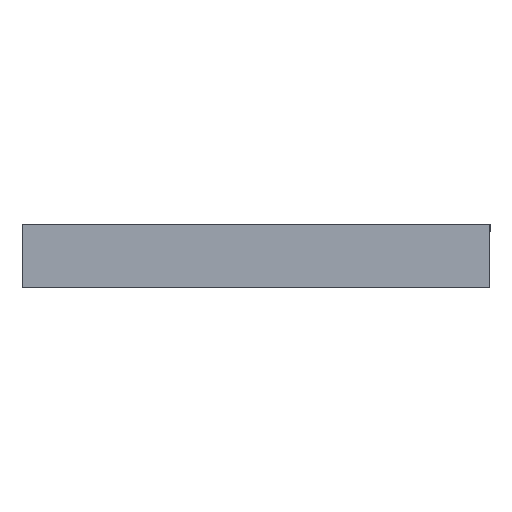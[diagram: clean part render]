
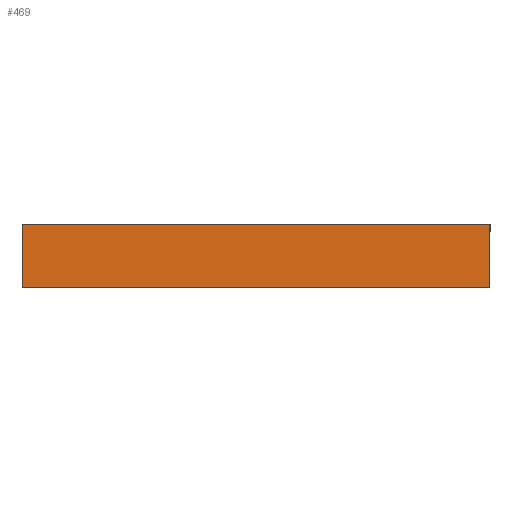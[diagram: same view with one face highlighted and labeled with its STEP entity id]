
A CAD part, left-side view. The second image highlights one B-rep face of the part: STEP entity #469.
In plain terms, the highlighted planar face has unit normal (-1, 0, 0).
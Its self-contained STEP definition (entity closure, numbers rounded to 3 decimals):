
#29 = EDGE_CURVE ( 'NONE', #712, #817, #310, .T. ) ;
#38 = AXIS2_PLACEMENT_3D ( 'NONE', #605, #598, #597 ) ;
#64 = EDGE_CURVE ( 'NONE', #795, #712, #267, .T. ) ;
#69 = EDGE_CURVE ( 'NONE', #795, #824, #248, .T. ) ;
#79 = EDGE_CURVE ( 'NONE', #824, #817, #230, .T. ) ;
#140 = ORIENTED_EDGE ( 'NONE', *, *, #79, .T. ) ;
#153 = ORIENTED_EDGE ( 'NONE', *, *, #29, .F. ) ;
#165 = FACE_OUTER_BOUND ( 'NONE', #335, .T. ) ;
#171 = ORIENTED_EDGE ( 'NONE', *, *, #69, .T. ) ;
#229 = VECTOR ( 'NONE', #736, 1000. ) ;
#230 = LINE ( 'NONE', #737, #229 ) ;
#247 = VECTOR ( 'NONE', #762, 1000. ) ;
#248 = LINE ( 'NONE', #763, #247 ) ;
#256 = VECTOR ( 'NONE', #775, 1000. ) ;
#267 = LINE ( 'NONE', #780, #256 ) ;
#304 = VECTOR ( 'NONE', #602, 1000. ) ;
#310 = LINE ( 'NONE', #618, #304 ) ;
#335 = EDGE_LOOP ( 'NONE', ( #140, #153, #447, #171 ) ) ;
#447 = ORIENTED_EDGE ( 'NONE', *, *, #64, .F. ) ;
#469 = ADVANCED_FACE ( 'NONE', ( #165 ), #609, .F. ) ;
#506 = CARTESIAN_POINT ( 'NONE',  ( -251., 479., 0. ) ) ;
#509 = CARTESIAN_POINT ( 'NONE',  ( -251., 0., 0. ) ) ;
#517 = CARTESIAN_POINT ( 'NONE',  ( -251., 479., 65. ) ) ;
#550 = CARTESIAN_POINT ( 'NONE',  ( -251., 0., 65. ) ) ;
#597 = DIRECTION ( 'NONE',  ( 0., 1., 0. ) ) ;
#598 = DIRECTION ( 'NONE',  ( 1., 0., 0. ) ) ;
#602 = DIRECTION ( 'NONE',  ( 0., 0., -1. ) ) ;
#605 = CARTESIAN_POINT ( 'NONE',  ( -251., 0., 65. ) ) ;
#609 = PLANE ( 'NONE',  #38 ) ;
#618 = CARTESIAN_POINT ( 'NONE',  ( -251., 0., 65. ) ) ;
#712 = VERTEX_POINT ( 'NONE', #550 ) ;
#736 = DIRECTION ( 'NONE',  ( 0., -1., 0. ) ) ;
#737 = CARTESIAN_POINT ( 'NONE',  ( -251., 0., 0. ) ) ;
#762 = DIRECTION ( 'NONE',  ( 0., 0., -1. ) ) ;
#763 = CARTESIAN_POINT ( 'NONE',  ( -251., 479., 65. ) ) ;
#775 = DIRECTION ( 'NONE',  ( 0., -1., 0. ) ) ;
#780 = CARTESIAN_POINT ( 'NONE',  ( -251., 0., 65. ) ) ;
#795 = VERTEX_POINT ( 'NONE', #517 ) ;
#817 = VERTEX_POINT ( 'NONE', #509 ) ;
#824 = VERTEX_POINT ( 'NONE', #506 ) ;
